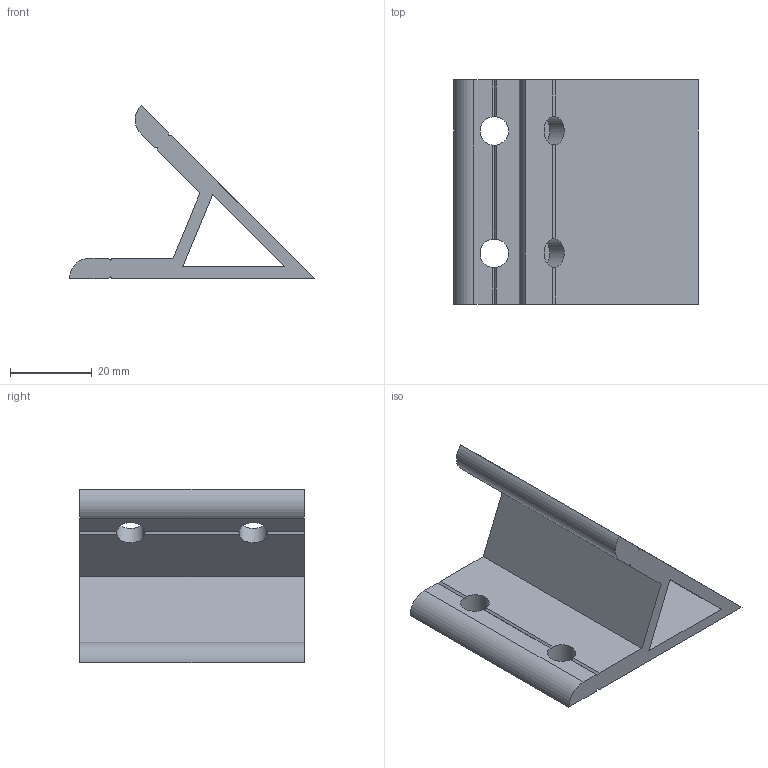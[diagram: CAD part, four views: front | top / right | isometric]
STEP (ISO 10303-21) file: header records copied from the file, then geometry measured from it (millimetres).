
FILE_DESCRIPTION(/* description */ ('Unknown'),/* implementation_level */ '2;1');
FILE_NAME(/* name */ 'AV5545',/* time_stamp */ '2026-09-17T13:45:57+08:00',/* author */ ('Unknown'),/* organization */ ('Unknown'),/* preprocessor_version */ 'ST-DEVELOPER v16.7',/* originating_system */ 'DEX',/* authorisation */ $);
FILE_SCHEMA (('AUTOMOTIVE_DESIGN {1 0 10303 214 3 1 1}'));
Length unit declared in the file: millimetre
Products named in the file (1): AV5545
Bounding box: 60 x 55 x 42.43 mm (x, y, z)
Volume: 26049.6 mm3; surface area: 15625.2 mm2
Topology: 1 solids, 1 shells, 44 faces, 142 edges, 92 vertices
Faces by surface type: plane 38, cylinder 6
Full cylindrical faces by diameter (mm): 7 x4
Entity records: 1604 total; most frequent: DIRECTION 280, ORIENTED_EDGE 276, CARTESIAN_POINT 275, EDGE_CURVE 138, AXIS2_PLACEMENT_3D 97, VERTEX_POINT 92, LINE 86, VECTOR 86
